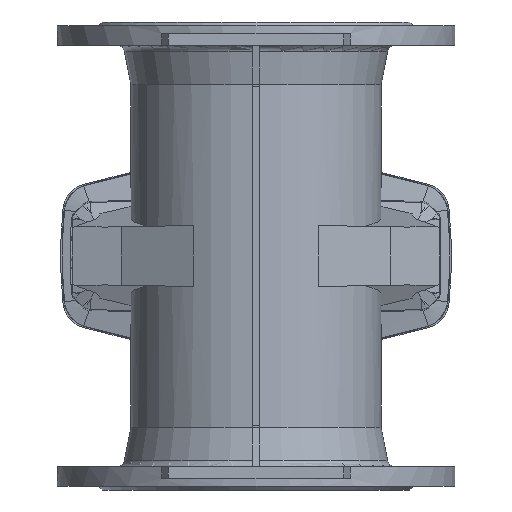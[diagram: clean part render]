
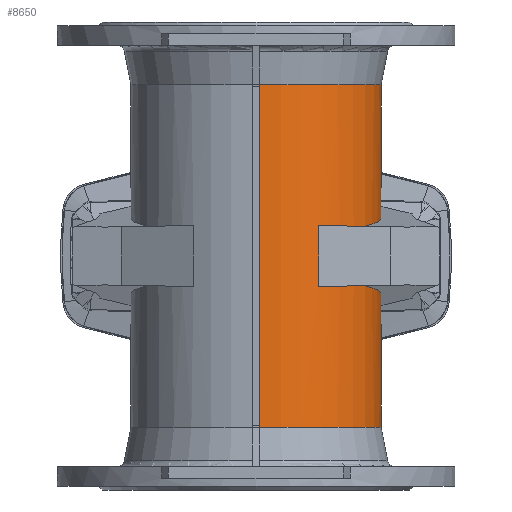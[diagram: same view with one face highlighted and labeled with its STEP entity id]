
A CAD part, front view. The second image highlights one B-rep face of the part: STEP entity #8650.
In plain terms, the highlighted cylindrical face has radius 107 mm (diameter 214 mm), a partial arc.
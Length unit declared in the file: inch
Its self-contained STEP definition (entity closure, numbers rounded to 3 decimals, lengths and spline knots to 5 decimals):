
#1331 = DIRECTION ( 'NONE',  ( 0., 0., -1. ) ) ;
#1348 = CARTESIAN_POINT ( 'NONE',  ( 2.1063, -3.64822, 7.87402 ) ) ;
#1350 = CARTESIAN_POINT ( 'NONE',  ( 5.42704, 1.00205, -1.40285 ) ) ;
#1355 = CARTESIAN_POINT ( 'NONE',  ( 3.65625, -2.09232, -0.99917 ) ) ;
#1356 = CARTESIAN_POINT ( 'NONE',  ( 0.11811, 4.21094, 0. ) ) ;
#1362 = CARTESIAN_POINT ( 'NONE',  ( 3.68193, 4.11098, -1.87054 ) ) ;
#1363 = DIRECTION ( 'NONE',  ( 0., 0., -1. ) ) ;
#1364 = CARTESIAN_POINT ( 'NONE',  ( 3.28407, -2.74269, -1.00567 ) ) ;
#1365 = CARTESIAN_POINT ( 'NONE',  ( 0.11811, 4.21094, -1.9474 ) ) ;
#1366 = CARTESIAN_POINT ( 'NONE',  ( 3.65625, -2.09232, -0.99917 ) ) ;
#1367 = DIRECTION ( 'NONE',  ( 0., 0., 1. ) ) ;
#1368 = CARTESIAN_POINT ( 'NONE',  ( 2.75523, -3.27355, -1.0149 ) ) ;
#1369 = CARTESIAN_POINT ( 'NONE',  ( 2.1063, -3.64822, -1.02623 ) ) ;
#1370 = CARTESIAN_POINT ( 'NONE',  ( 3.28407, -2.74269, 1.00567 ) ) ;
#1371 = CARTESIAN_POINT ( 'NONE',  ( 3.65625, -2.09232, 0.99917 ) ) ;
#1372 = CARTESIAN_POINT ( 'NONE',  ( 0.11811, -4.21094, 0. ) ) ;
#1373 = CARTESIAN_POINT ( 'NONE',  ( 0., 0., -5.75916 ) ) ;
#1374 = DIRECTION ( 'NONE',  ( 0., 0., -1. ) ) ;
#1375 = DIRECTION ( 'NONE',  ( -1., 0., 0. ) ) ;
#1379 = CARTESIAN_POINT ( 'NONE',  ( 2.75523, -3.27355, 1.0149 ) ) ;
#1380 = CARTESIAN_POINT ( 'NONE',  ( 2.1063, -3.64822, 1.02623 ) ) ;
#1448 = AXIS2_PLACEMENT_3D ( 'NONE', #4571, #4569, #4568 ) ;
#1946 = CIRCLE ( 'NONE', #2719, 4.2126 ) ;
#1951 = LINE ( 'NONE', #12150, #1953 ) ;
#1953 = VECTOR ( 'NONE', #12151, 39.37008 ) ;
#2083 = LINE ( 'NONE', #1348, #2096 ) ;
#2092 = LINE ( 'NONE', #1356, #2097 ) ;
#2095 = CIRCLE ( 'NONE', #2763, 4.2126 ) ;
#2096 = VECTOR ( 'NONE', #1331, 39.37008 ) ;
#2097 = VECTOR ( 'NONE', #1363, 39.37008 ) ;
#2098 = LINE ( 'NONE', #1372, #2099 ) ;
#2099 = VECTOR ( 'NONE', #1367, 39.37008 ) ;
#2462 =( BOUNDED_CURVE ( )  B_SPLINE_CURVE ( 3, ( #1365, #1362, #1350, #1366 ),
 .UNSPECIFIED., .F., .F. ) 
 B_SPLINE_CURVE_WITH_KNOTS ( ( 4, 4 ),
 ( 0.15281, 2.21534 ),
 .UNSPECIFIED. ) 
 CURVE ( )  GEOMETRIC_REPRESENTATION_ITEM ( )  RATIONAL_B_SPLINE_CURVE ( ( 1., 0.676, 0.676, 1. ) ) 
 REPRESENTATION_ITEM ( '' )  );
#2463 =( BOUNDED_CURVE ( )  B_SPLINE_CURVE ( 3, ( #1355, #1364, #1368, #1369 ),
 .UNSPECIFIED., .F., .F. ) 
 B_SPLINE_CURVE_WITH_KNOTS ( ( 4, 4 ),
 ( 3.66136, 4.18879 ),
 .UNSPECIFIED. ) 
 CURVE ( )  GEOMETRIC_REPRESENTATION_ITEM ( )  RATIONAL_B_SPLINE_CURVE ( ( 1., 0.977, 0.977, 1. ) ) 
 REPRESENTATION_ITEM ( '' )  );
#2464 =( BOUNDED_CURVE ( )  B_SPLINE_CURVE ( 3, ( #1371, #1370, #1379, #1380 ),
 .UNSPECIFIED., .F., .F. ) 
 B_SPLINE_CURVE_WITH_KNOTS ( ( 4, 4 ),
 ( 3.66136, 4.18879 ),
 .UNSPECIFIED. ) 
 CURVE ( )  GEOMETRIC_REPRESENTATION_ITEM ( )  RATIONAL_B_SPLINE_CURVE ( ( 1., 0.977, 0.977, 1. ) ) 
 REPRESENTATION_ITEM ( '' )  );
#2645 = VERTEX_POINT ( 'NONE', #6197 ) ;
#2719 = AXIS2_PLACEMENT_3D ( 'NONE', #12147, #12148, #12149 ) ;
#2763 = AXIS2_PLACEMENT_3D ( 'NONE', #1373, #1374, #1375 ) ;
#3075 = ORIENTED_EDGE ( 'NONE', *, *, #6678, .F. ) ;
#3076 = ORIENTED_EDGE ( 'NONE', *, *, #6679, .T. ) ;
#3077 = ORIENTED_EDGE ( 'NONE', *, *, #6680, .T. ) ;
#3079 = ORIENTED_EDGE ( 'NONE', *, *, #6510, .F. ) ;
#3082 = ORIENTED_EDGE ( 'NONE', *, *, #6683, .F. ) ;
#3085 = ORIENTED_EDGE ( 'NONE', *, *, #6511, .T. ) ;
#3087 = ORIENTED_EDGE ( 'NONE', *, *, #6676, .F. ) ;
#3089 = ORIENTED_EDGE ( 'NONE', *, *, #6515, .T. ) ;
#4075 =( BOUNDED_CURVE ( )  B_SPLINE_CURVE ( 3, ( #12139, #12138, #12143, #12144 ),
 .UNSPECIFIED., .F., .F. ) 
 B_SPLINE_CURVE_WITH_KNOTS ( ( 4, 4 ),
 ( 0.15281, 2.21534 ),
 .UNSPECIFIED. ) 
 CURVE ( )  GEOMETRIC_REPRESENTATION_ITEM ( )  RATIONAL_B_SPLINE_CURVE ( ( 1., 0.676, 0.676, 1. ) ) 
 REPRESENTATION_ITEM ( '' )  );
#4568 = DIRECTION ( 'NONE',  ( -1., 0., 0. ) ) ;
#4569 = DIRECTION ( 'NONE',  ( 0., 0., 1. ) ) ;
#4571 = CARTESIAN_POINT ( 'NONE',  ( 0., 0., 0. ) ) ;
#4858 = FACE_OUTER_BOUND ( 'NONE', #5261, .T. ) ;
#4864 = CYLINDRICAL_SURFACE ( 'NONE', #1448, 4.2126 ) ;
#5261 = EDGE_LOOP ( 'NONE', ( #9585, #9545, #3075, #3076, #3077, #3087, #3082, #3079, #3089, #3085 ) ) ;
#6197 = CARTESIAN_POINT ( 'NONE',  ( 3.65625, -2.09232, 0.99917 ) ) ;
#6510 = EDGE_CURVE ( 'NONE', #11569, #2645, #4075, .T. ) ;
#6511 = EDGE_CURVE ( 'NONE', #11564, #11671, #1946, .T. ) ;
#6515 = EDGE_CURVE ( 'NONE', #11569, #11564, #1951, .T. ) ;
#6676 = EDGE_CURVE ( 'NONE', #11595, #11645, #2083, .T. ) ;
#6678 = EDGE_CURVE ( 'NONE', #11562, #11616, #2092, .T. ) ;
#6679 = EDGE_CURVE ( 'NONE', #11562, #11660, #2462, .T. ) ;
#6680 = EDGE_CURVE ( 'NONE', #11660, #11645, #2463, .T. ) ;
#6681 = EDGE_CURVE ( 'NONE', #11616, #11709, #2095, .T. ) ;
#6682 = EDGE_CURVE ( 'NONE', #11709, #11671, #2098, .T. ) ;
#6683 = EDGE_CURVE ( 'NONE', #2645, #11595, #2464, .T. ) ;
#8650 = ADVANCED_FACE ( 'NONE', ( #4858 ), #4864, .T. ) ;
#9073 = CARTESIAN_POINT ( 'NONE',  ( 0.11811, 4.21094, -1.9474 ) ) ;
#9076 = CARTESIAN_POINT ( 'NONE',  ( 0.11811, 4.21094, 5.75916 ) ) ;
#9086 = CARTESIAN_POINT ( 'NONE',  ( 0.11811, 4.21094, 1.9474 ) ) ;
#9134 = CARTESIAN_POINT ( 'NONE',  ( 2.1063, -3.64822, 1.02623 ) ) ;
#9173 = CARTESIAN_POINT ( 'NONE',  ( 0.11811, 4.21094, -5.75916 ) ) ;
#9227 = CARTESIAN_POINT ( 'NONE',  ( 2.1063, -3.64822, -1.02623 ) ) ;
#9255 = CARTESIAN_POINT ( 'NONE',  ( 3.65625, -2.09232, -0.99917 ) ) ;
#9275 = CARTESIAN_POINT ( 'NONE',  ( 0.11811, -4.21094, 5.75916 ) ) ;
#9346 = CARTESIAN_POINT ( 'NONE',  ( 0.11811, -4.21094, -5.75916 ) ) ;
#9545 = ORIENTED_EDGE ( 'NONE', *, *, #6681, .F. ) ;
#9585 = ORIENTED_EDGE ( 'NONE', *, *, #6682, .F. ) ;
#11562 = VERTEX_POINT ( 'NONE', #9073 ) ;
#11564 = VERTEX_POINT ( 'NONE', #9076 ) ;
#11569 = VERTEX_POINT ( 'NONE', #9086 ) ;
#11595 = VERTEX_POINT ( 'NONE', #9134 ) ;
#11616 = VERTEX_POINT ( 'NONE', #9173 ) ;
#11645 = VERTEX_POINT ( 'NONE', #9227 ) ;
#11660 = VERTEX_POINT ( 'NONE', #9255 ) ;
#11671 = VERTEX_POINT ( 'NONE', #9275 ) ;
#11709 = VERTEX_POINT ( 'NONE', #9346 ) ;
#12138 = CARTESIAN_POINT ( 'NONE',  ( 3.68193, 4.11098, 1.87054 ) ) ;
#12139 = CARTESIAN_POINT ( 'NONE',  ( 0.11811, 4.21094, 1.9474 ) ) ;
#12143 = CARTESIAN_POINT ( 'NONE',  ( 5.42704, 1.00205, 1.40285 ) ) ;
#12144 = CARTESIAN_POINT ( 'NONE',  ( 3.65625, -2.09232, 0.99917 ) ) ;
#12147 = CARTESIAN_POINT ( 'NONE',  ( 0., 0., 5.75916 ) ) ;
#12148 = DIRECTION ( 'NONE',  ( 0., 0., -1. ) ) ;
#12149 = DIRECTION ( 'NONE',  ( -1., 0., 0. ) ) ;
#12150 = CARTESIAN_POINT ( 'NONE',  ( 0.11811, 4.21094, 0. ) ) ;
#12151 = DIRECTION ( 'NONE',  ( 0., 0., 1. ) ) ;
